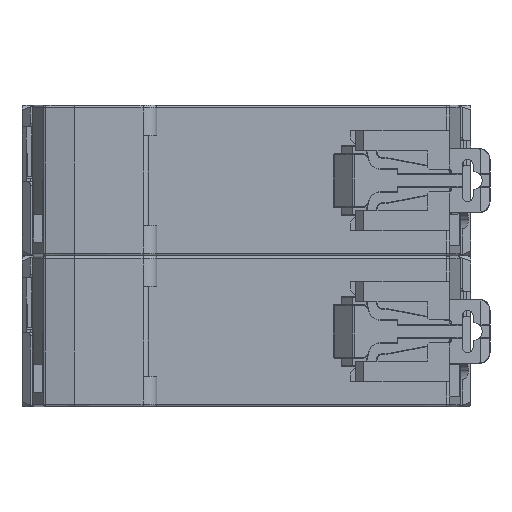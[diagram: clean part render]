
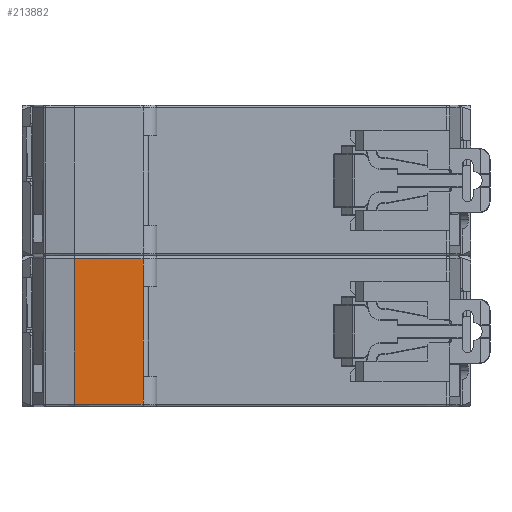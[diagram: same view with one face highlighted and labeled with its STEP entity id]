
A CAD part, left-side view. The second image highlights one B-rep face of the part: STEP entity #213882.
In plain terms, the highlighted planar face has unit normal (-1, 0, 0) as drawn and (0, -1, 0) by its records, which use the part's own axes.
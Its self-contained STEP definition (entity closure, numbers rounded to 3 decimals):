
#8180 = DIRECTION ( 'NONE',  ( -1., 0., 0. ) ) ;
#9244 = LINE ( 'NONE', #145335, #51998 ) ;
#11358 = CARTESIAN_POINT ( 'NONE',  ( 15.15, -5.5, 28.8 ) ) ;
#15606 = VECTOR ( 'NONE', #108169, 1000. ) ;
#27661 = VECTOR ( 'NONE', #88413, 1000. ) ;
#28642 = LINE ( 'NONE', #45088, #109230 ) ;
#32537 = EDGE_CURVE ( 'NONE', #76955, #32989, #122438, .T. ) ;
#32989 = VERTEX_POINT ( 'NONE', #60363 ) ;
#42603 = VECTOR ( 'NONE', #186975, 1000. ) ;
#45088 = CARTESIAN_POINT ( 'NONE',  ( 18.5, -5.5, 32.5 ) ) ;
#46455 = PLANE ( 'NONE',  #51170 ) ;
#47531 = FACE_OUTER_BOUND ( 'NONE', #94945, .T. ) ;
#51170 = AXIS2_PLACEMENT_3D ( 'NONE', #11358, #183574, #148456 ) ;
#51998 = VECTOR ( 'NONE', #8180, 1000. ) ;
#53308 = EDGE_CURVE ( 'NONE', #114710, #76955, #78280, .T. ) ;
#53437 = CARTESIAN_POINT ( 'NONE',  ( 18.5, -5.5, 53.5 ) ) ;
#56962 = ORIENTED_EDGE ( 'NONE', *, *, #146734, .F. ) ;
#60363 = CARTESIAN_POINT ( 'NONE',  ( 30.759, -5.5, 27.5 ) ) ;
#67399 = CARTESIAN_POINT ( 'NONE',  ( 30.759, -5.5, 27.5 ) ) ;
#76955 = VERTEX_POINT ( 'NONE', #163780 ) ;
#78280 = LINE ( 'NONE', #191333, #158340 ) ;
#81288 = DIRECTION ( 'NONE',  ( 0., 0., 1. ) ) ;
#81966 = ORIENTED_EDGE ( 'NONE', *, *, #32537, .T. ) ;
#88413 = DIRECTION ( 'NONE',  ( 1., 0., 0. ) ) ;
#94012 = EDGE_CURVE ( 'NONE', #32989, #102602, #111634, .T. ) ;
#94945 = EDGE_LOOP ( 'NONE', ( #135007, #81966, #106434, #136489, #214360, #56962 ) ) ;
#102602 = VERTEX_POINT ( 'NONE', #212365 ) ;
#106434 = ORIENTED_EDGE ( 'NONE', *, *, #94012, .T. ) ;
#108169 = DIRECTION ( 'NONE',  ( 0., 0., -1. ) ) ;
#109230 = VECTOR ( 'NONE', #81288, 1000. ) ;
#110561 = CARTESIAN_POINT ( 'NONE',  ( 18.5, -5.5, 48.5 ) ) ;
#111634 = LINE ( 'NONE', #67399, #42603 ) ;
#114710 = VERTEX_POINT ( 'NONE', #215748 ) ;
#122438 = LINE ( 'NONE', #179119, #27661 ) ;
#135007 = ORIENTED_EDGE ( 'NONE', *, *, #53308, .T. ) ;
#136489 = ORIENTED_EDGE ( 'NONE', *, *, #178684, .T. ) ;
#136953 = EDGE_CURVE ( 'NONE', #216097, #169999, #203784, .T. ) ;
#145194 = DIRECTION ( 'NONE',  ( 0., 0., -1. ) ) ;
#145335 = CARTESIAN_POINT ( 'NONE',  ( 30.759, -5.5, 53.5 ) ) ;
#146734 = EDGE_CURVE ( 'NONE', #114710, #169999, #28642, .T. ) ;
#148456 = DIRECTION ( 'NONE',  ( 1., 0., 0. ) ) ;
#158340 = VECTOR ( 'NONE', #145194, 1000. ) ;
#163780 = CARTESIAN_POINT ( 'NONE',  ( 18.5, -5.5, 27.5 ) ) ;
#169999 = VERTEX_POINT ( 'NONE', #110561 ) ;
#178684 = EDGE_CURVE ( 'NONE', #102602, #216097, #9244, .T. ) ;
#179119 = CARTESIAN_POINT ( 'NONE',  ( 18.5, -5.5, 27.5 ) ) ;
#183574 = DIRECTION ( 'NONE',  ( 0., 1., 0. ) ) ;
#186975 = DIRECTION ( 'NONE',  ( 0., 0., 1. ) ) ;
#191333 = CARTESIAN_POINT ( 'NONE',  ( 18.5, -5.5, 32.5 ) ) ;
#202267 = CARTESIAN_POINT ( 'NONE',  ( 18.5, -5.5, 53.5 ) ) ;
#203784 = LINE ( 'NONE', #53437, #15606 ) ;
#212365 = CARTESIAN_POINT ( 'NONE',  ( 30.759, -5.5, 53.5 ) ) ;
#213882 = ADVANCED_FACE ( 'NONE', ( #47531 ), #46455, .F. ) ;
#214360 = ORIENTED_EDGE ( 'NONE', *, *, #136953, .T. ) ;
#215748 = CARTESIAN_POINT ( 'NONE',  ( 18.5, -5.5, 32.5 ) ) ;
#216097 = VERTEX_POINT ( 'NONE', #202267 ) ;
